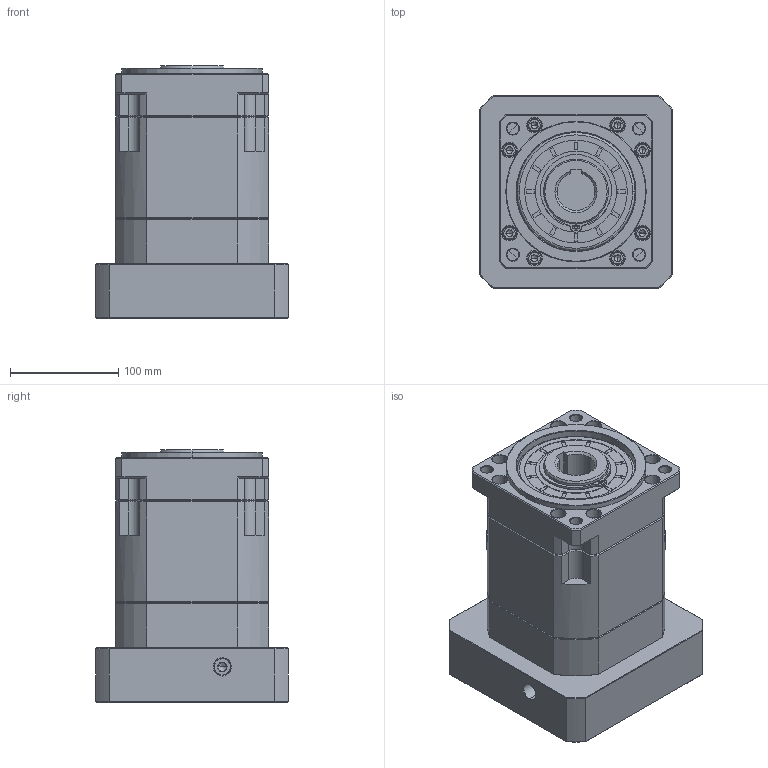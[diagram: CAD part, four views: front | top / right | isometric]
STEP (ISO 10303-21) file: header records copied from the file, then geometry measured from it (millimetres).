
FILE_DESCRIPTION (( 'STEP AP214' ), '1' );
FILE_NAME ('ZB142A-K35-L2-35-114.3-200-M12.step', '2023-03-17T10:49:54', ( '' ), ( '' ), 'SwSTEP 2.0', 'SolidWorks 2016', '' );
FILE_SCHEMA (( 'AUTOMOTIVE_DESIGN' ));
Length unit declared in the file: millimetre
Products named in the file (1): ZB142A-K35-L2-35-114.3-200-M12
Bounding box: 178 x 178 x 233.2 mm (x, y, z)
Volume: 4153791.1 mm3; surface area: 365812.2 mm2
Topology: 6 solids, 6 shells, 2137 faces, 5617 edges, 3586 vertices
Faces by surface type: plane 1006, cylinder 420, cone 385, bspline 306, torus 20
Entity records: 113936 total; most frequent: CARTESIAN_POINT 39895, ORIENTED_EDGE 11178, DIRECTION 9461, EDGE_CURVE 5589, VERTEX_POINT 3586, LINE 3491, VECTOR 3491, AXIS2_PLACEMENT_3D 2985
